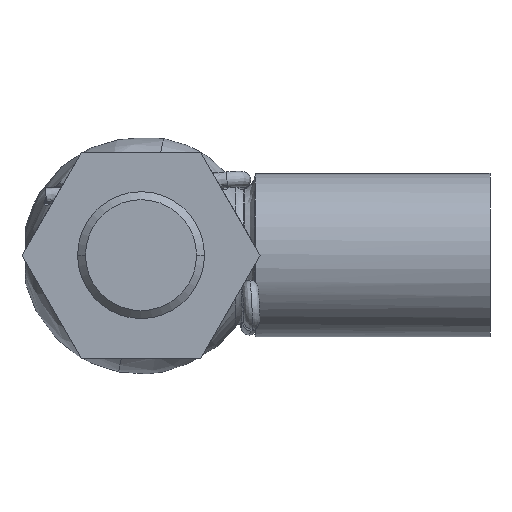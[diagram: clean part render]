
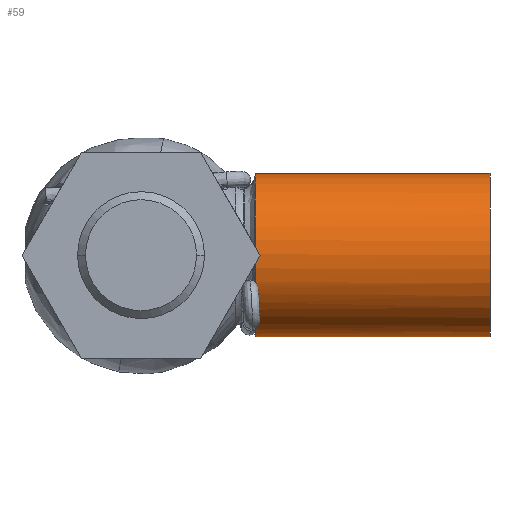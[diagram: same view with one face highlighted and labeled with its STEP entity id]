
A CAD part, front view. The second image highlights one B-rep face of the part: STEP entity #59.
In plain terms, the highlighted cylindrical face has radius 5.15 mm (diameter 10.3 mm), a partial arc.
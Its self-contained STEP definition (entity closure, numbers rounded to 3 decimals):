
#59 = ADVANCED_FACE ( 'NONE', ( #8571 ), #3425, .T. ) ;
#144 = CARTESIAN_POINT ( 'NONE',  ( 7.26, -4.844, -1.751 ) ) ;
#218 = CARTESIAN_POINT ( 'NONE',  ( 7.265, -3.36, -3.903 ) ) ;
#262 = EDGE_LOOP ( 'NONE', ( #4280, #6164, #7367, #1101, #320, #2778, #4491, #9039, #9596 ) ) ;
#320 = ORIENTED_EDGE ( 'NONE', *, *, #9593, .F. ) ;
#325 = CARTESIAN_POINT ( 'NONE',  ( 22.003, 0., -5.15 ) ) ;
#435 = B_SPLINE_CURVE_WITH_KNOTS ( 'NONE', 3,
 ( #908, #7762, #4731, #4084, #9381, #5557, #1014, #1774, #144, #2509 ),
 .UNSPECIFIED., .F., .F.,
 ( 4, 2, 2, 2, 4 ),
 ( 0., 0., 0., 0.001, 0.001 ),
 .UNSPECIFIED. ) ;
#467 = LINE ( 'NONE', #9387, #5693 ) ;
#519 = CARTESIAN_POINT ( 'NONE',  ( 22.003, 0., 0. ) ) ;
#595 = AXIS2_PLACEMENT_3D ( 'NONE', #1182, #1884, #7915 ) ;
#633 = CARTESIAN_POINT ( 'NONE',  ( 7.203, 0., 0. ) ) ;
#661 = CARTESIAN_POINT ( 'NONE',  ( 7.203, -3.423, -3.848 ) ) ;
#666 = DIRECTION ( 'NONE',  ( -1., 0., 0. ) ) ;
#758 = CARTESIAN_POINT ( 'NONE',  ( 7.203, -3.362, -3.901 ) ) ;
#908 = CARTESIAN_POINT ( 'NONE',  ( 7.203, -4.516, -2.476 ) ) ;
#1014 = CARTESIAN_POINT ( 'NONE',  ( 7.357, -4.768, -1.949 ) ) ;
#1101 = ORIENTED_EDGE ( 'NONE', *, *, #5533, .T. ) ;
#1182 = CARTESIAN_POINT ( 'NONE',  ( 7.203, 0., 0. ) ) ;
#1374 = CARTESIAN_POINT ( 'NONE',  ( 7.244, -3.361, -3.902 ) ) ;
#1573 = VERTEX_POINT ( 'NONE', #3701 ) ;
#1652 = CIRCLE ( 'NONE', #2587, 5.15 ) ;
#1682 = EDGE_CURVE ( 'NONE', #9207, #9698, #8333, .T. ) ;
#1774 = CARTESIAN_POINT ( 'NONE',  ( 7.304, -4.821, -1.814 ) ) ;
#1878 = AXIS2_PLACEMENT_3D ( 'NONE', #633, #5084, #2069 ) ;
#1884 = DIRECTION ( 'NONE',  ( 1., 0., 0. ) ) ;
#1904 = CIRCLE ( 'NONE', #1878, 5.15 ) ;
#1997 = CIRCLE ( 'NONE', #595, 5.15 ) ;
#2069 = DIRECTION ( 'NONE',  ( 0., 0., -1. ) ) ;
#2249 = DIRECTION ( 'NONE',  ( 0., 0., 1. ) ) ;
#2320 = CARTESIAN_POINT ( 'NONE',  ( 7.203, -3.423, -3.848 ) ) ;
#2347 = EDGE_CURVE ( 'NONE', #9312, #9698, #467, .T. ) ;
#2509 = CARTESIAN_POINT ( 'NONE',  ( 7.203, -4.861, -1.7 ) ) ;
#2587 = AXIS2_PLACEMENT_3D ( 'NONE', #519, #6621, #4349 ) ;
#2696 = EDGE_CURVE ( 'NONE', #5229, #3686, #1904, .T. ) ;
#2778 = ORIENTED_EDGE ( 'NONE', *, *, #2696, .T. ) ;
#2816 = VECTOR ( 'NONE', #666, 1000. ) ;
#3001 = DIRECTION ( 'NONE',  ( 0., 0., -1. ) ) ;
#3323 = CARTESIAN_POINT ( 'NONE',  ( 7.246, -3.382, -3.884 ) ) ;
#3359 = CARTESIAN_POINT ( 'NONE',  ( 7.226, -3.404, -3.865 ) ) ;
#3425 = CYLINDRICAL_SURFACE ( 'NONE', #4009, 5.15 ) ;
#3641 = CARTESIAN_POINT ( 'NONE',  ( 7.203, -4.516, -2.476 ) ) ;
#3686 = VERTEX_POINT ( 'NONE', #2320 ) ;
#3701 = CARTESIAN_POINT ( 'NONE',  ( 7.203, 0., 5.15 ) ) ;
#3814 = AXIS2_PLACEMENT_3D ( 'NONE', #6761, #6831, #3001 ) ;
#4001 = VERTEX_POINT ( 'NONE', #9651 ) ;
#4009 = AXIS2_PLACEMENT_3D ( 'NONE', #7498, #5142, #2249 ) ;
#4084 = CARTESIAN_POINT ( 'NONE',  ( 7.34, -4.642, -2.232 ) ) ;
#4123 = CARTESIAN_POINT ( 'NONE',  ( 22.003, 0., 5.15 ) ) ;
#4241 = EDGE_CURVE ( 'NONE', #9207, #4001, #7341, .T. ) ;
#4280 = ORIENTED_EDGE ( 'NONE', *, *, #2347, .F. ) ;
#4349 = DIRECTION ( 'NONE',  ( 0., 0., -1. ) ) ;
#4454 = CARTESIAN_POINT ( 'NONE',  ( 7.203, -3.362, -3.901 ) ) ;
#4491 = ORIENTED_EDGE ( 'NONE', *, *, #5340, .T. ) ;
#4731 = CARTESIAN_POINT ( 'NONE',  ( 7.284, -4.578, -2.36 ) ) ;
#5084 = DIRECTION ( 'NONE',  ( 1., 0., 0. ) ) ;
#5142 = DIRECTION ( 'NONE',  ( -1., 0., 0. ) ) ;
#5229 = VERTEX_POINT ( 'NONE', #3641 ) ;
#5340 = EDGE_CURVE ( 'NONE', #3686, #4001, #8768, .T. ) ;
#5533 = EDGE_CURVE ( 'NONE', #1573, #8458, #1997, .T. ) ;
#5557 = CARTESIAN_POINT ( 'NONE',  ( 7.367, -4.737, -2.022 ) ) ;
#5621 = VERTEX_POINT ( 'NONE', #4123 ) ;
#5693 = VECTOR ( 'NONE', #6227, 1000. ) ;
#6164 = ORIENTED_EDGE ( 'NONE', *, *, #6962, .T. ) ;
#6227 = DIRECTION ( 'NONE',  ( -1., 0., 0. ) ) ;
#6621 = DIRECTION ( 'NONE',  ( -1., 0., 0. ) ) ;
#6761 = CARTESIAN_POINT ( 'NONE',  ( 7.203, 0., 0. ) ) ;
#6818 = CARTESIAN_POINT ( 'NONE',  ( 16.117, 0., 5.15 ) ) ;
#6831 = DIRECTION ( 'NONE',  ( 1., 0., 0. ) ) ;
#6962 = EDGE_CURVE ( 'NONE', #9312, #5621, #1652, .T. ) ;
#7161 = EDGE_CURVE ( 'NONE', #5621, #1573, #7575, .T. ) ;
#7172 = CARTESIAN_POINT ( 'NONE',  ( 7.203, -4.861, -1.7 ) ) ;
#7341 =( BOUNDED_CURVE ( )  B_SPLINE_CURVE ( 3, ( #4454, #8293, #1374, #7584 ),
 .UNSPECIFIED., .F., .F. ) 
 B_SPLINE_CURVE_WITH_KNOTS ( ( 4, 4 ),
 ( 4.071, 4.072 ),
 .UNSPECIFIED. ) 
 CURVE ( )  GEOMETRIC_REPRESENTATION_ITEM ( )  RATIONAL_B_SPLINE_CURVE ( ( 1., 1., 1., 1. ) ) 
 REPRESENTATION_ITEM ( '' )  );
#7367 = ORIENTED_EDGE ( 'NONE', *, *, #7161, .T. ) ;
#7498 = CARTESIAN_POINT ( 'NONE',  ( 16.117, 0., 0. ) ) ;
#7575 = LINE ( 'NONE', #6818, #2816 ) ;
#7584 = CARTESIAN_POINT ( 'NONE',  ( 7.265, -3.36, -3.903 ) ) ;
#7762 = CARTESIAN_POINT ( 'NONE',  ( 7.246, -4.547, -2.42 ) ) ;
#7915 = DIRECTION ( 'NONE',  ( 0., 0., -1. ) ) ;
#8293 = CARTESIAN_POINT ( 'NONE',  ( 7.223, -3.361, -3.902 ) ) ;
#8333 = CIRCLE ( 'NONE', #3814, 5.15 ) ;
#8458 = VERTEX_POINT ( 'NONE', #7172 ) ;
#8571 = FACE_OUTER_BOUND ( 'NONE', #262, .T. ) ;
#8768 = B_SPLINE_CURVE_WITH_KNOTS ( 'NONE', 3,
 ( #661, #3359, #3323, #218 ),
 .UNSPECIFIED., .F., .F.,
 ( 4, 4 ),
 ( 0., 0. ),
 .UNSPECIFIED. ) ;
#9039 = ORIENTED_EDGE ( 'NONE', *, *, #4241, .F. ) ;
#9207 = VERTEX_POINT ( 'NONE', #758 ) ;
#9312 = VERTEX_POINT ( 'NONE', #325 ) ;
#9315 = CARTESIAN_POINT ( 'NONE',  ( 7.203, 0., -5.15 ) ) ;
#9381 = CARTESIAN_POINT ( 'NONE',  ( 7.359, -4.675, -2.163 ) ) ;
#9387 = CARTESIAN_POINT ( 'NONE',  ( 16.117, 0., -5.15 ) ) ;
#9593 = EDGE_CURVE ( 'NONE', #5229, #8458, #435, .T. ) ;
#9596 = ORIENTED_EDGE ( 'NONE', *, *, #1682, .T. ) ;
#9651 = CARTESIAN_POINT ( 'NONE',  ( 7.265, -3.36, -3.903 ) ) ;
#9698 = VERTEX_POINT ( 'NONE', #9315 ) ;
